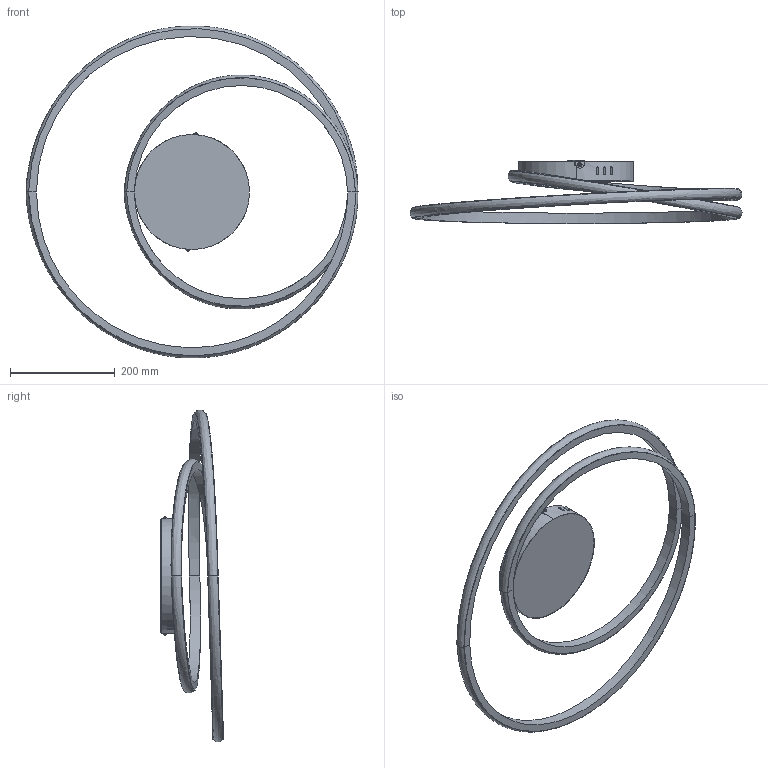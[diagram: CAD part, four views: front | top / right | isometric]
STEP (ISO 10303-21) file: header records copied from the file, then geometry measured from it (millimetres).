
FILE_DESCRIPTION(/* description */ (''),/* implementation_level */ '2;1');
FILE_NAME(/* name */ 'VT-7911.stp',/* time_stamp */ '2026-06-25T18:23:56+08:00',/* author */ (''),/* organization */ (''),/* preprocessor_version */ 'ST-DEVELOPER v16',/* originating_system */ 'SIEMENS PLM Software NX 10.0',/* authorisation */ '');
FILE_SCHEMA (('AP203_CONFIGURATION_CONTROLLED_3D_DESIGN_OF_MECHANICAL_PARTS_AND_ASSEMBLIES_MIM_LF { 1 0 10303 403 2 1 2}'));
Length unit declared in the file: millimetre
Products named in the file (1): 1443C955A613m
Bounding box: 635 x 120 x 635 mm (x, y, z)
Volume: 1182333.8 mm3; surface area: 491684.5 mm2
Topology: 6 solids, 6 shells, 282 faces, 768 edges, 498 vertices
Faces by surface type: cylinder 144, plane 86, bspline 38, cone 10, torus 4
Entity records: 18869 total; most frequent: CARTESIAN_POINT 12348, ORIENTED_EDGE 1536, DIRECTION 1100, EDGE_CURVE 768, VERTEX_POINT 498, AXIS2_PLACEMENT_3D 373, LINE 354, VECTOR 354
